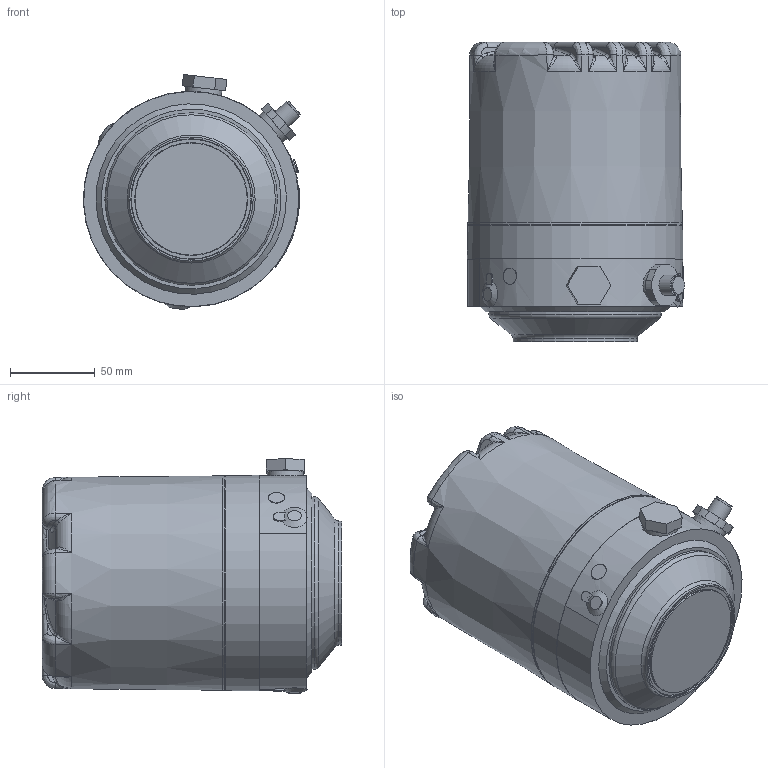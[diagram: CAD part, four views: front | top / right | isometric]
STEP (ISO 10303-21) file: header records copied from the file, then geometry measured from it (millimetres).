
FILE_DESCRIPTION(/* description */ (''),/* implementation_level */ '2;1');
FILE_NAME(/* name */ 'C:\V\Delavan\Designs\Customer Shell Models\Valves\W61\WCB - maint. free.STEP',/* time_stamp */ '2021-04-14T16:16:49+06:00',/* author */ ('H7M44K'),/* organization */ (''),/* preprocessor_version */ 'ST-DEVELOPER v18.1',/* originating_system */ 'Autodesk Inventor 2020',/* authorisation */ '');
FILE_SCHEMA (('AUTOMOTIVE_DESIGN { 1 0 10303 214 3 1 1 }'));
Length unit declared in the file: inch
Products named in the file (1): 131562
Bounding box: 127.89 x 176.3 x 138.41 mm (x, y, z)
Volume: 2044409.1 mm3; surface area: 92851.6 mm2
Topology: 1 solids, 1 shells, 271 faces, 677 edges, 405 vertices
Faces by surface type: bspline 107, plane 64, torus 39, cylinder 35, cone 22, sphere 4
Full cylindrical faces by diameter (mm): 8.052 x3, 10.566 x1, 12 x1, 66.04 x1, 71.018 x1, 73.025 x1, 101.6 x1
Entity records: 17795 total; most frequent: CARTESIAN_POINT 12012, ORIENTED_EDGE 1326, DIRECTION 1072, EDGE_CURVE 663, AXIS2_PLACEMENT_3D 466, VERTEX_POINT 405, CIRCLE 297, EDGE_LOOP 288
